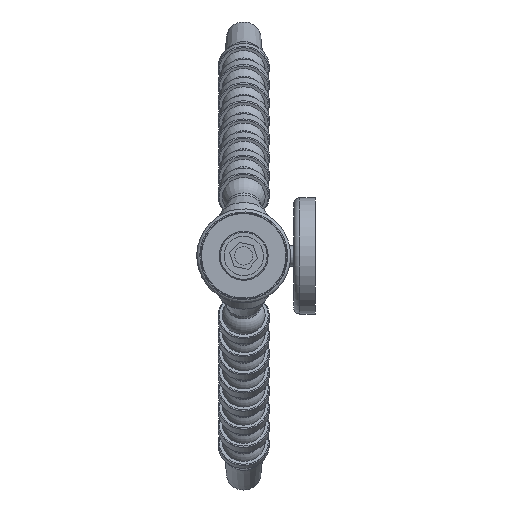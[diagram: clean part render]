
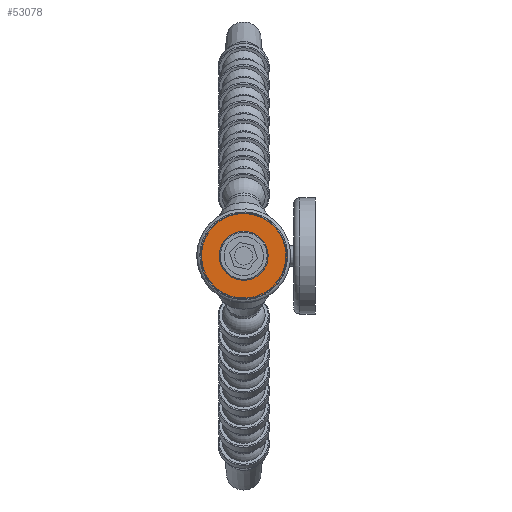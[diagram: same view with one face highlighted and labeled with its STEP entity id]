
A CAD part, left-side view. The second image highlights one B-rep face of the part: STEP entity #53078.
In plain terms, the highlighted planar face has unit normal (-1, 0, 0).
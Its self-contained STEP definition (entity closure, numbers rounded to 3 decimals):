
#139 = DIRECTION ( 'NONE',  ( 1., 0., 0. ) ) ;
#786 = FACE_BOUND ( 'NONE', #20200, .T. ) ;
#4022 = DIRECTION ( 'NONE',  ( 1., 0., 0. ) ) ;
#5677 = AXIS2_PLACEMENT_3D ( 'NONE', #35039, #4022, #45082 ) ;
#7724 = CIRCLE ( 'NONE', #24754, 21. ) ;
#11151 = PLANE ( 'NONE',  #23917 ) ;
#20200 = EDGE_LOOP ( 'NONE', ( #57531 ) ) ;
#23112 = ORIENTED_EDGE ( 'NONE', *, *, #63397, .F. ) ;
#23917 = AXIS2_PLACEMENT_3D ( 'NONE', #30817, #139, #36160 ) ;
#23919 = CARTESIAN_POINT ( 'NONE',  ( -152.7, 35., 0. ) ) ;
#24754 = AXIS2_PLACEMENT_3D ( 'NONE', #23919, #34286, #54030 ) ;
#25360 = EDGE_CURVE ( 'NONE', #44236, #44236, #56848, .T. ) ;
#29339 = VERTEX_POINT ( 'NONE', #39376 ) ;
#30817 = CARTESIAN_POINT ( 'NONE',  ( -152.7, 30.31, 20.47 ) ) ;
#31992 = EDGE_LOOP ( 'NONE', ( #23112 ) ) ;
#34286 = DIRECTION ( 'NONE',  ( 1., 0., 0. ) ) ;
#35039 = CARTESIAN_POINT ( 'NONE',  ( -152.7, 35., 0. ) ) ;
#36160 = DIRECTION ( 'NONE',  ( 0., 0.975, 0.223 ) ) ;
#39376 = CARTESIAN_POINT ( 'NONE',  ( -152.7, 55.47, 4.69 ) ) ;
#40877 = FACE_OUTER_BOUND ( 'NONE', #31992, .T. ) ;
#44236 = VERTEX_POINT ( 'NONE', #50570 ) ;
#45082 = DIRECTION ( 'NONE',  ( 0., 0., -1. ) ) ;
#50570 = CARTESIAN_POINT ( 'NONE',  ( -152.7, 35., -11.95 ) ) ;
#53078 = ADVANCED_FACE ( 'NONE', ( #786, #40877 ), #11151, .F. ) ;
#54030 = DIRECTION ( 'NONE',  ( 0., 0.975, 0.223 ) ) ;
#56848 = CIRCLE ( 'NONE', #5677, 11.95 ) ;
#57531 = ORIENTED_EDGE ( 'NONE', *, *, #25360, .T. ) ;
#63397 = EDGE_CURVE ( 'NONE', #29339, #29339, #7724, .T. ) ;
